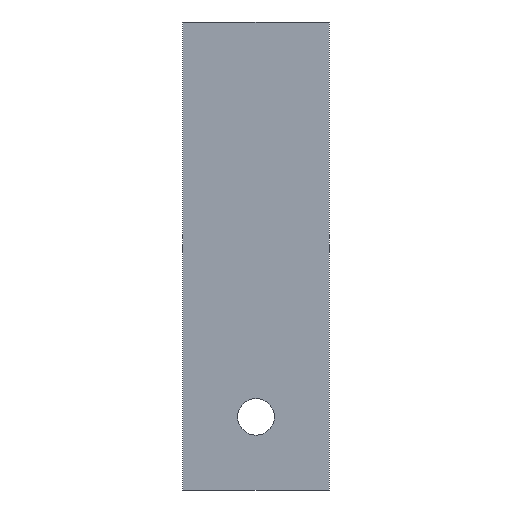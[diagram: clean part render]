
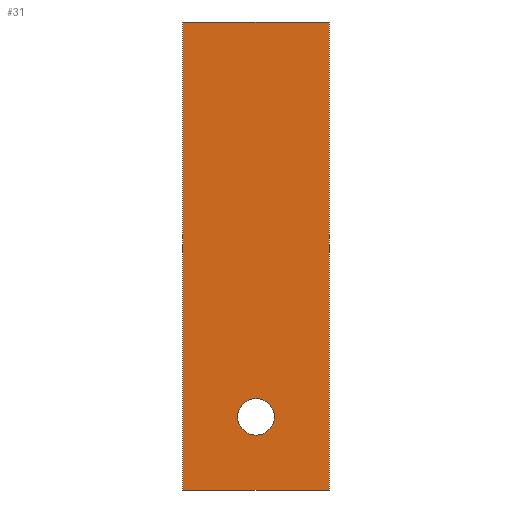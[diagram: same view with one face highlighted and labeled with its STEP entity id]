
A CAD part, front view. The second image highlights one B-rep face of the part: STEP entity #31.
In plain terms, the highlighted planar face has unit normal (0, -1, 0).
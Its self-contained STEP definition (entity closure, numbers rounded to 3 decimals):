
#1 = LINE ( 'NONE', #307, #61 ) ;
#4 = LINE ( 'NONE', #90, #247 ) ;
#5 = VECTOR ( 'NONE', #95, 1000. ) ;
#7 = VERTEX_POINT ( 'NONE', #290 ) ;
#21 = CARTESIAN_POINT ( 'NONE',  ( 25., 0., -141.25 ) ) ;
#31 = ADVANCED_FACE ( 'NONE', ( #137, #107 ), #308, .T. ) ;
#38 = DIRECTION ( 'NONE',  ( 0., -1., 0. ) ) ;
#41 = DIRECTION ( 'NONE',  ( 0., 1., 0. ) ) ;
#42 = CARTESIAN_POINT ( 'NONE',  ( 0., 0., 0. ) ) ;
#46 = EDGE_CURVE ( 'NONE', #52, #160, #311, .T. ) ;
#52 = VERTEX_POINT ( 'NONE', #193 ) ;
#61 = VECTOR ( 'NONE', #187, 1000. ) ;
#63 = DIRECTION ( 'NONE',  ( 0., 0., 1. ) ) ;
#65 = DIRECTION ( 'NONE',  ( 0., 0., -1. ) ) ;
#67 = AXIS2_PLACEMENT_3D ( 'NONE', #237, #41, #63 ) ;
#77 = CARTESIAN_POINT ( 'NONE',  ( 50., 0., -160. ) ) ;
#79 = CIRCLE ( 'NONE', #313, 6.25 ) ;
#82 = CIRCLE ( 'NONE', #67, 6.25 ) ;
#85 = LINE ( 'NONE', #166, #5 ) ;
#90 = CARTESIAN_POINT ( 'NONE',  ( 0., 0., -160. ) ) ;
#95 = DIRECTION ( 'NONE',  ( 0., 0., 1. ) ) ;
#100 = ORIENTED_EDGE ( 'NONE', *, *, #227, .F. ) ;
#103 = VERTEX_POINT ( 'NONE', #21 ) ;
#107 = FACE_BOUND ( 'NONE', #156, .T. ) ;
#112 = DIRECTION ( 'NONE',  ( -1., 0., 0. ) ) ;
#115 = DIRECTION ( 'NONE',  ( 0., 0., -1. ) ) ;
#128 = AXIS2_PLACEMENT_3D ( 'NONE', #42, #38, #115 ) ;
#130 = VECTOR ( 'NONE', #65, 1000. ) ;
#134 = EDGE_CURVE ( 'NONE', #103, #7, #79, .T. ) ;
#137 = FACE_OUTER_BOUND ( 'NONE', #266, .T. ) ;
#156 = EDGE_LOOP ( 'NONE', ( #201, #274 ) ) ;
#160 = VERTEX_POINT ( 'NONE', #77 ) ;
#165 = ORIENTED_EDGE ( 'NONE', *, *, #243, .F. ) ;
#166 = CARTESIAN_POINT ( 'NONE',  ( 0., 0., 0. ) ) ;
#167 = CARTESIAN_POINT ( 'NONE',  ( 0., 0., -160. ) ) ;
#168 = ORIENTED_EDGE ( 'NONE', *, *, #272, .F. ) ;
#183 = VERTEX_POINT ( 'NONE', #192 ) ;
#187 = DIRECTION ( 'NONE',  ( 1., 0., 0. ) ) ;
#192 = CARTESIAN_POINT ( 'NONE',  ( 0., 0., 0. ) ) ;
#193 = CARTESIAN_POINT ( 'NONE',  ( 50., 0., 0. ) ) ;
#201 = ORIENTED_EDGE ( 'NONE', *, *, #134, .T. ) ;
#227 = EDGE_CURVE ( 'NONE', #292, #183, #85, .T. ) ;
#234 = DIRECTION ( 'NONE',  ( 0., 1., 0. ) ) ;
#237 = CARTESIAN_POINT ( 'NONE',  ( 25., 0., -135. ) ) ;
#240 = CARTESIAN_POINT ( 'NONE',  ( 50., 0., 0. ) ) ;
#243 = EDGE_CURVE ( 'NONE', #183, #52, #1, .T. ) ;
#244 = EDGE_CURVE ( 'NONE', #7, #103, #82, .T. ) ;
#247 = VECTOR ( 'NONE', #112, 1000. ) ;
#258 = CARTESIAN_POINT ( 'NONE',  ( 25., 0., -135. ) ) ;
#260 = DIRECTION ( 'NONE',  ( 0., 0., 1. ) ) ;
#266 = EDGE_LOOP ( 'NONE', ( #100, #168, #271, #165 ) ) ;
#271 = ORIENTED_EDGE ( 'NONE', *, *, #46, .F. ) ;
#272 = EDGE_CURVE ( 'NONE', #160, #292, #4, .T. ) ;
#274 = ORIENTED_EDGE ( 'NONE', *, *, #244, .T. ) ;
#290 = CARTESIAN_POINT ( 'NONE',  ( 25., 0., -128.75 ) ) ;
#292 = VERTEX_POINT ( 'NONE', #167 ) ;
#307 = CARTESIAN_POINT ( 'NONE',  ( 0., 0., 0. ) ) ;
#308 = PLANE ( 'NONE',  #128 ) ;
#311 = LINE ( 'NONE', #240, #130 ) ;
#313 = AXIS2_PLACEMENT_3D ( 'NONE', #258, #234, #260 ) ;
